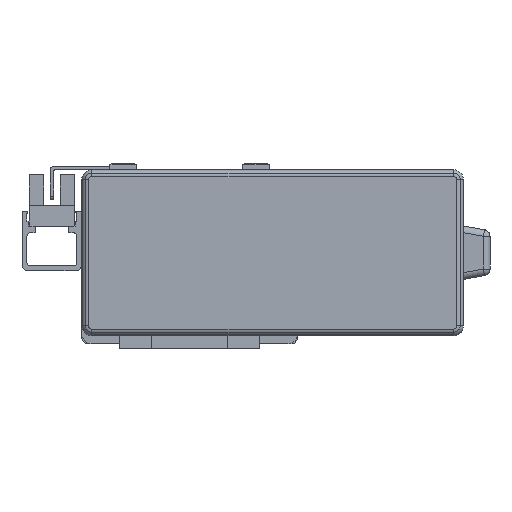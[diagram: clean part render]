
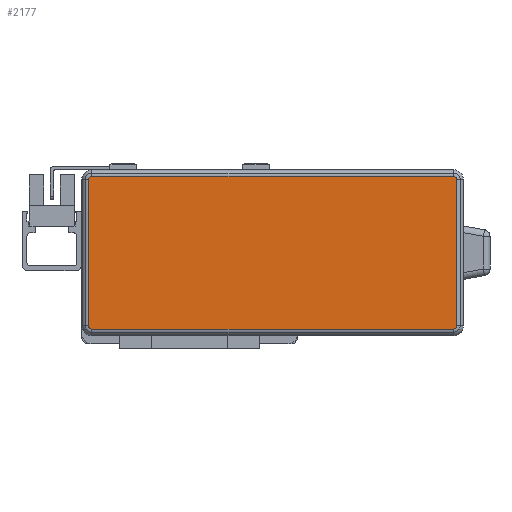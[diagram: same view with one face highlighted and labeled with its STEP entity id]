
A CAD part, left-side view. The second image highlights one B-rep face of the part: STEP entity #2177.
In plain terms, the highlighted planar face has unit normal (-1, 0, 0) as drawn and (0, 0, 1) by its records, which use the part's own axes.
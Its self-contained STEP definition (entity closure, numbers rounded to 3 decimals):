
#125 = EDGE_CURVE ( 'NONE', #12400, #16612, #25508, .T. ) ;
#621 = ORIENTED_EDGE ( 'NONE', *, *, #14367, .T. ) ;
#1202 = DIRECTION ( 'NONE',  ( 0., -1., 0. ) ) ;
#1216 = EDGE_CURVE ( 'NONE', #10373, #12601, #22110, .T. ) ;
#2048 = VERTEX_POINT ( 'NONE', #10933 ) ;
#2177 = ADVANCED_FACE ( 'NONE', ( #6993 ), #26314, .F. ) ;
#2716 = CARTESIAN_POINT ( 'NONE',  ( -55.5, 22., 40. ) ) ;
#3410 = AXIS2_PLACEMENT_3D ( 'NONE', #11106, #26140, #13249 ) ;
#3944 = CARTESIAN_POINT ( 'NONE',  ( 0., -23., 40. ) ) ;
#4796 = CARTESIAN_POINT ( 'NONE',  ( -54.5, 23., 40. ) ) ;
#6006 = LINE ( 'NONE', #13990, #16031 ) ;
#6075 = DIRECTION ( 'NONE',  ( 0., 0., 1. ) ) ;
#6108 = ORIENTED_EDGE ( 'NONE', *, *, #8592, .T. ) ;
#6592 = CARTESIAN_POINT ( 'NONE',  ( 54.5, 22., 40. ) ) ;
#6915 = EDGE_CURVE ( 'NONE', #15129, #10373, #15582, .T. ) ;
#6993 = FACE_OUTER_BOUND ( 'NONE', #25053, .T. ) ;
#7127 = DIRECTION ( 'NONE',  ( -1., 0., 0. ) ) ;
#7610 = CARTESIAN_POINT ( 'NONE',  ( -55.5, -22., 40. ) ) ;
#7738 = ORIENTED_EDGE ( 'NONE', *, *, #12523, .T. ) ;
#7749 = VERTEX_POINT ( 'NONE', #7610 ) ;
#7823 = ORIENTED_EDGE ( 'NONE', *, *, #21516, .T. ) ;
#8229 = CARTESIAN_POINT ( 'NONE',  ( 54.5, -23., 40. ) ) ;
#8592 = EDGE_CURVE ( 'NONE', #2048, #14035, #27252, .T. ) ;
#8642 = CARTESIAN_POINT ( 'NONE',  ( 0., 23., 40. ) ) ;
#8713 = DIRECTION ( 'NONE',  ( -1., 0., 0. ) ) ;
#9911 = VECTOR ( 'NONE', #25804, 1000. ) ;
#10039 = CARTESIAN_POINT ( 'NONE',  ( -54.5, 22., 40. ) ) ;
#10373 = VERTEX_POINT ( 'NONE', #4796 ) ;
#10933 = CARTESIAN_POINT ( 'NONE',  ( 55.5, -22., 40. ) ) ;
#11106 = CARTESIAN_POINT ( 'NONE',  ( -54.5, -22., 40. ) ) ;
#11555 = CIRCLE ( 'NONE', #13066, 1. ) ;
#12173 = DIRECTION ( 'NONE',  ( -1., 0., 0. ) ) ;
#12400 = VERTEX_POINT ( 'NONE', #17135 ) ;
#12523 = EDGE_CURVE ( 'NONE', #7749, #12400, #13293, .T. ) ;
#12596 = AXIS2_PLACEMENT_3D ( 'NONE', #15600, #19949, #7127 ) ;
#12601 = VERTEX_POINT ( 'NONE', #2716 ) ;
#13066 = AXIS2_PLACEMENT_3D ( 'NONE', #6592, #21560, #8713 ) ;
#13249 = DIRECTION ( 'NONE',  ( -1., 0., 0. ) ) ;
#13293 = CIRCLE ( 'NONE', #3410, 1. ) ;
#13522 = AXIS2_PLACEMENT_3D ( 'NONE', #18903, #6075, #21032 ) ;
#13990 = CARTESIAN_POINT ( 'NONE',  ( -55.5, 0., 40. ) ) ;
#14035 = VERTEX_POINT ( 'NONE', #25128 ) ;
#14367 = EDGE_CURVE ( 'NONE', #14035, #15129, #11555, .T. ) ;
#15129 = VERTEX_POINT ( 'NONE', #19927 ) ;
#15154 = VECTOR ( 'NONE', #19577, 1000. ) ;
#15582 = LINE ( 'NONE', #8642, #9911 ) ;
#15600 = CARTESIAN_POINT ( 'NONE',  ( 0., 0., 40. ) ) ;
#16031 = VECTOR ( 'NONE', #1202, 1000. ) ;
#16612 = VERTEX_POINT ( 'NONE', #8229 ) ;
#16754 = DIRECTION ( 'NONE',  ( 1., 0., 0. ) ) ;
#17135 = CARTESIAN_POINT ( 'NONE',  ( -54.5, -23., 40. ) ) ;
#18626 = ORIENTED_EDGE ( 'NONE', *, *, #1216, .T. ) ;
#18903 = CARTESIAN_POINT ( 'NONE',  ( 54.5, -22., 40. ) ) ;
#18989 = EDGE_CURVE ( 'NONE', #16612, #2048, #24401, .T. ) ;
#19577 = DIRECTION ( 'NONE',  ( 0., 1., 0. ) ) ;
#19708 = ORIENTED_EDGE ( 'NONE', *, *, #125, .T. ) ;
#19809 = VECTOR ( 'NONE', #16754, 1000. ) ;
#19927 = CARTESIAN_POINT ( 'NONE',  ( 54.5, 23., 40. ) ) ;
#19949 = DIRECTION ( 'NONE',  ( 0., 0., -1. ) ) ;
#21032 = DIRECTION ( 'NONE',  ( -1., 0., 0. ) ) ;
#21108 = ORIENTED_EDGE ( 'NONE', *, *, #18989, .T. ) ;
#21516 = EDGE_CURVE ( 'NONE', #12601, #7749, #6006, .T. ) ;
#21560 = DIRECTION ( 'NONE',  ( 0., 0., 1. ) ) ;
#22110 = CIRCLE ( 'NONE', #23374, 1. ) ;
#23311 = ORIENTED_EDGE ( 'NONE', *, *, #6915, .T. ) ;
#23374 = AXIS2_PLACEMENT_3D ( 'NONE', #10039, #25052, #12173 ) ;
#23873 = CARTESIAN_POINT ( 'NONE',  ( 55.5, 0., 40. ) ) ;
#24401 = CIRCLE ( 'NONE', #13522, 1. ) ;
#25052 = DIRECTION ( 'NONE',  ( 0., 0., 1. ) ) ;
#25053 = EDGE_LOOP ( 'NONE', ( #19708, #21108, #6108, #621, #23311, #18626, #7823, #7738 ) ) ;
#25128 = CARTESIAN_POINT ( 'NONE',  ( 55.5, 22., 40. ) ) ;
#25508 = LINE ( 'NONE', #3944, #19809 ) ;
#25804 = DIRECTION ( 'NONE',  ( -1., 0., 0. ) ) ;
#26140 = DIRECTION ( 'NONE',  ( 0., 0., 1. ) ) ;
#26314 = PLANE ( 'NONE',  #12596 ) ;
#27252 = LINE ( 'NONE', #23873, #15154 ) ;
